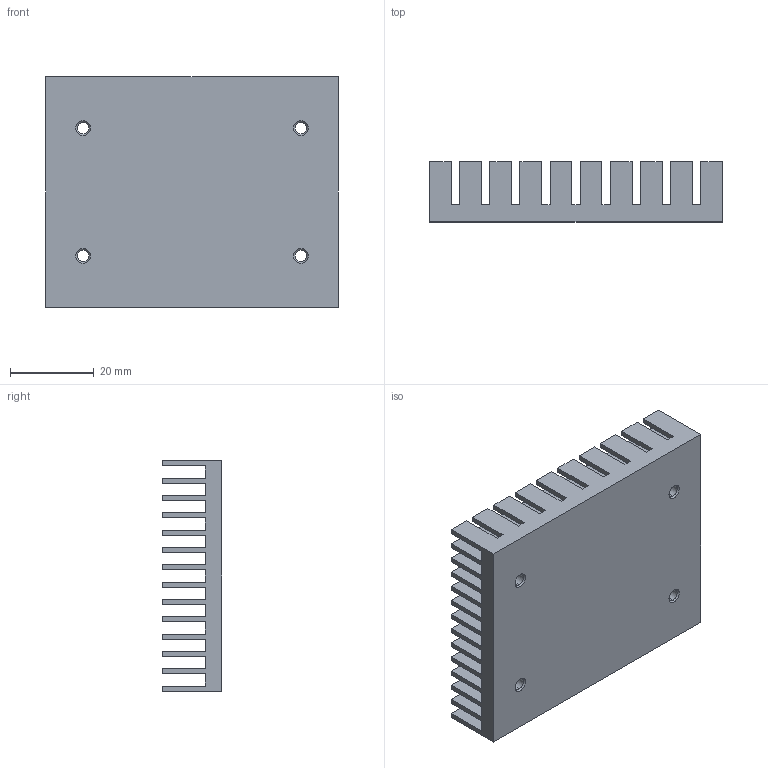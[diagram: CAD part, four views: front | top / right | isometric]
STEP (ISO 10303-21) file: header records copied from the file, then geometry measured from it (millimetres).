
FILE_DESCRIPTION (( 'STEP AP214' ), '1' );
FILE_NAME ('Heat Sink-COM Express.STEP', '2015-06-28T07:38:55', ( '' ), ( '' ), 'SwSTEP 2.0', 'SolidWorks 2014', '' );
FILE_SCHEMA (( 'AUTOMOTIVE_DESIGN' ));
Length unit declared in the file: millimetre
Products named in the file (1): Heat Sink-COM Express
Bounding box: 70 x 14.3 x 55 mm (x, y, z)
Volume: 23954.6 mm3; surface area: 26716.1 mm2
Topology: 1 solids, 1 shells, 660 faces, 1690 edges, 1124 vertices
Faces by surface type: plane 638, cylinder 14, cone 8
Entity records: 26896 total; most frequent: CARTESIAN_POINT 3475, ORIENTED_EDGE 3380, DIRECTION 3048, EDGE_CURVE 1690, VECTOR 1654, LINE 1654, VERTEX_POINT 1124, EDGE_LOOP 760
